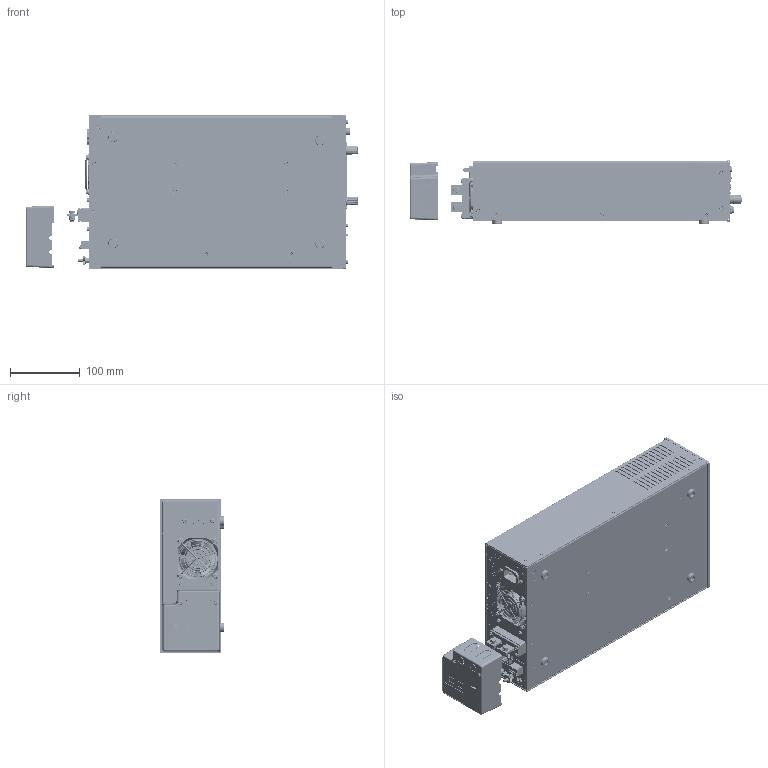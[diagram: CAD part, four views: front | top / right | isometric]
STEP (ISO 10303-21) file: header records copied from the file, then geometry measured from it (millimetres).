
FILE_DESCRIPTION(/* description */ (''),/* implementation_level */ '2;1');
FILE_NAME(/* name */ 'A:\Data\SM800\presentation\SM800.stp',/* time_stamp */ '2021-01-11T16:35:35+01:00',/* author */ ('Delta'),/* organization */ (''),/* preprocessor_version */ 'ST-DEVELOPER v17.2',/* originating_system */ 'Autodesk Inventor 2019',/* authorisation */ '');
FILE_SCHEMA (('AUTOMOTIVE_DESIGN { 1 0 10303 214 3 1 1 }'));
Products named in the file (1): assembly SM800 outside_Shrinkwrap_1
Bounding box: 477.5 x 91.55 x 222 mm (x, y, z)
Volume: 6856176.2 mm3; surface area: 395854.3 mm2
Topology: 2 solids, 2 shells, 9113 faces, 24043 edges, 15593 vertices
Faces by surface type: plane 5701, bspline 1759, cylinder 895, cone 505, torus 191, sphere 62
Full cylindrical faces by diameter (mm): 0.393 x1, 0.5 x16, 0.7 x1, 1 x10, 1.1 x15, 1.409 x1, 1.5 x16, 2 x2, 2.156 x2, 2.2 x4, 2.5 x6, 2.73 x2, 3 x29, 3.1 x4, 3.2 x26, 3.4 x4, 3.5 x15, 4 x6, 4.2 x4, 4.25 x6, 4.3 x4, 4.4 x4, 4.6 x2, 5 x5, 5.2 x2, 5.5 x27, 6 x30, 6.7 x2, 6.8 x4, 7 x5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
Entity records: 303195 total; most frequent: CARTESIAN_POINT 80295, ORIENTED_EDGE 47950, DIRECTION 37762, EDGE_CURVE 23975, LINE 15742, VECTOR 15742, VERTEX_POINT 15593, AXIS2_PLACEMENT_3D 11010
